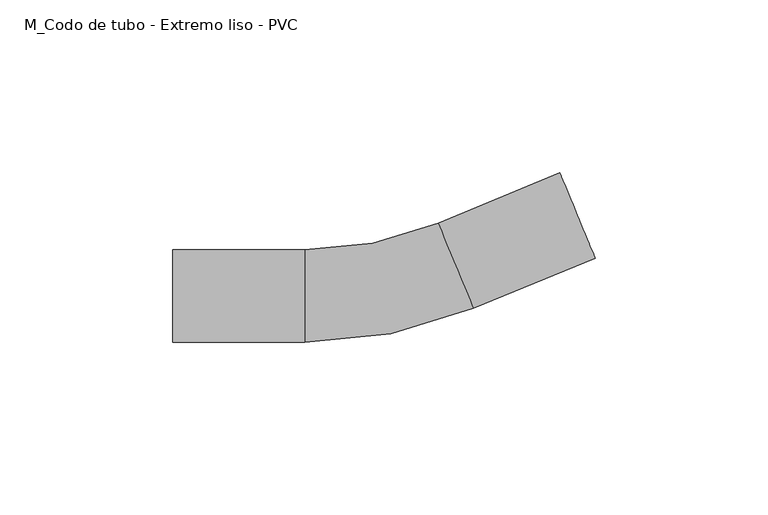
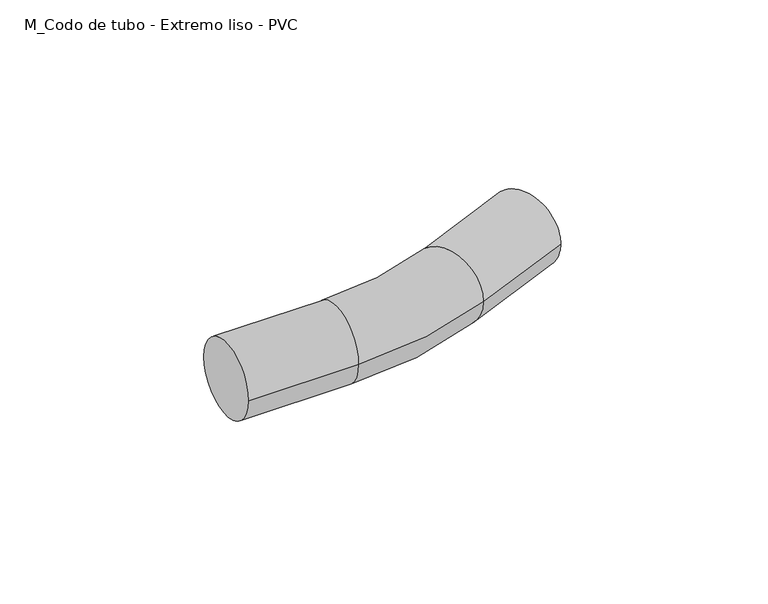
"""IFC4 building model written with IfcOpenShell, lengths in millimetres: cable carrier fitting geometry, M_Codo de tubo - Extremo liso - PVC : CODO ILUMINACION."""

from ifc_helpers import new_model, si_unit, point, frame, origin, place, context, project, spatial, circle_curve, ellipse_curve, trimmed, source, transform, mapped, element, save
from ifc_brep_helpers import plane_surface, cylinder_surface, revolved_surface, advanced_brep


def m_codo_de_tubo_extremo_liso_pvc_48e1025b(model_context):
    return source(origin(), model_context, "Body", "AdvancedBrep", [
        advanced_brep(
        [(-60.8297292, -13.335, 0.0), (-60.8297292, 13.335, 0.0), (-22.7297292, -13.335, 0.0), (-22.7297292, 13.335, 0.0), (15.8985545, 21.016631, 0.0), (26.1022521, -3.6242589, 0.0), (61.3035234, 10.952452, 0.0), (51.0998258, 35.5933419, 0.0)],
        [
            (0, 1, circle_curve(frame((-60.8297292, 0.0, 0.0), z_axis=(-1.0, 0.0, 0.0), x_axis=(0.0, 1.0, 0.0)), 13.335)),
            (1, 0, circle_curve(frame((-60.8297292, 0.0, 0.0), z_axis=(-1.0, 0.0, 0.0), x_axis=(0.0, 1.0, 0.0)), 13.335)),
            (0, 2),
            (2, 3, circle_curve(frame((-22.7297292, 0.0, 0.0), z_axis=(-1.0, 0.0, 0.0), x_axis=(0.0, 1.0, 0.0)), 13.335)),
            (3, 1),
            (3, 2, circle_curve(frame((-22.7297292, 0.0, 0.0), z_axis=(-1.0, 0.0, 0.0), x_axis=(0.0, 1.0, 0.0)), 13.335)),
            (4, 3, circle_curve(frame((-22.7297292, 114.3, 0.0), z_axis=(0.0, 0.0, -1.0), x_axis=(0.0, -1.0, 0.0)), 100.965)),
            (2, 5, circle_curve(frame((-22.7297292, 114.3, 0.0), z_axis=(0.0, 0.0, 1.0), x_axis=(0.0, -1.0, 0.0)), 127.635)),
            (5, 4, circle_curve(frame((21.0004033, 8.6961861, 0.0), z_axis=(-0.9239178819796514, -0.3825908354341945, 0.0), x_axis=(-0.3825908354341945, 0.9239178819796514, 0.0)), 13.335)),
            (4, 5, circle_curve(frame((21.0004033, 8.6961861, 0.0), z_axis=(-0.9239178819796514, -0.38259083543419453, 0.0), x_axis=(-0.38259083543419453, 0.9239178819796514, 0.0)), 13.335)),
            (6, 7, circle_curve(frame((56.2016746, 23.2728969, 0.0), z_axis=(0.9239178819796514, 0.3825908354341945, 0.0), x_axis=(-0.3825908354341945, 0.9239178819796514, 0.0)), 13.335)),
            (7, 6, circle_curve(frame((56.2016746, 23.2728969, 0.0), z_axis=(0.9239178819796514, 0.3825908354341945, 0.0), x_axis=(-0.3825908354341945, 0.9239178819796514, 0.0)), 13.335)),
            (5, 6),
            (7, 4),
        ],
        [
            plane_surface(frame((-60.8297292, 0.0, 0.0), z_axis=(-1.0, 0.0, 0.0), x_axis=(0.0, 0.0, 1.0))),
            cylinder_surface(frame((-60.8297292, 0.0, 0.0), z_axis=(-1.0, 0.0, 0.0), x_axis=(0.0, 1.0, 0.0)), 13.335),
            revolved_surface(trimmed(ellipse_curve(frame((-22.7297292, 0.0, 0.0), z_axis=(-1.0, 0.0, 0.0), x_axis=(0.0, 1.0, 0.0)), 13.335, 13.335), [point((-22.7297292, -13.335, 0.0))], [point((-22.7297292, 13.335, 0.0))], True, "CARTESIAN"), (-22.7297292, 114.3, 0.0), (0.0, 0.0, 1.0)),
            revolved_surface(trimmed(ellipse_curve(frame((-22.7297292, 0.0, 0.0), z_axis=(-1.0, 0.0, 0.0), x_axis=(0.0, 1.0, 0.0)), 13.335, 13.335), [point((-22.7297292, 13.335, 0.0))], [point((-22.7297292, -13.335, 0.0))], True, "CARTESIAN"), (-22.7297292, 114.3, 0.0), (0.0, 0.0, 1.0)),
            plane_surface(frame((56.2016746, 23.2728969, 0.0), z_axis=(0.9239178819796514, 0.3825908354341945, 0.0), x_axis=(0.0, 0.0, 1.0))),
            cylinder_surface(frame((21.0004033, 8.6961861, 0.0), z_axis=(-0.9239178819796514, -0.3825908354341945, 0.0), x_axis=(-0.3825908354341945, 0.9239178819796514, 0.0)), 13.335),
        ],
        [
            (0, [[1, 2]]),
            (1, [[-1, 3, 4, 5]]),
            (1, [[-2, -5, 6, -3]]),
            (2, [[7, -4, 8, 9]]),
            (3, [[-8, -6, -7, 10]]),
            (4, [[11, 12]]),
            (5, [[-9, 13, -12, 14]]),
            (5, [[-10, -14, -11, -13]]),
        ],
    ),
    ])


if __name__ == "__main__":
    model = new_model("IFC4")
    model_context = context("Model", 3, world=origin())
    ifc_project = project(units=[si_unit("LENGTHUNIT", "METRE", prefix="MILLI")], contexts=[model_context])
    site = spatial("IfcSite", under=ifc_project)
    building = spatial("IfcBuilding", under=site)
    placement = place(None, origin())
    m_codo_de_tubo_extremo_liso_pvc_shape = m_codo_de_tubo_extremo_liso_pvc_48e1025b(model_context)
    element("IfcCableCarrierFitting", 1, ObjectType="M_Codo de tubo - Extremo liso - PVC : CODO ILUMINACION", at=placement, inside=building, context=model_context, shape_type="MappedRepresentation", body=[
        mapped(m_codo_de_tubo_extremo_liso_pvc_shape, transform((0.0, 0.0, 0.0), x_axis=(1.0, 0.0, 0.0), y_axis=(0.0, 1.0, 0.0), z_axis=(0.0, 0.0, 1.0))),
    ])
    save(model, "model.ifc")
